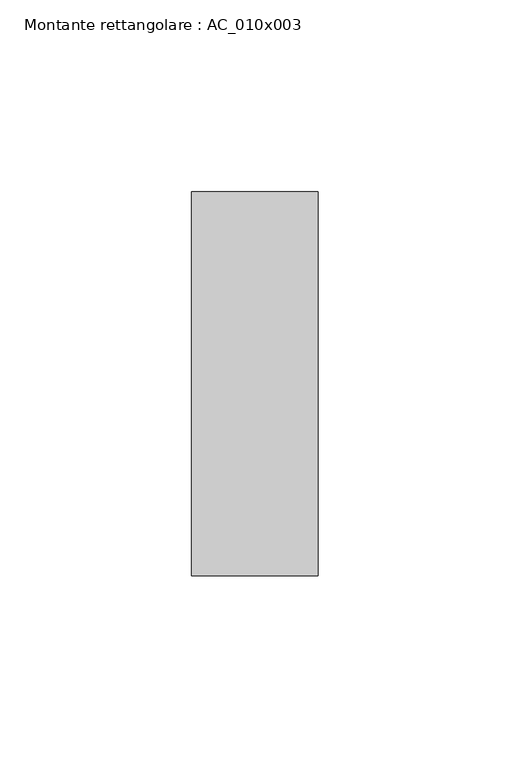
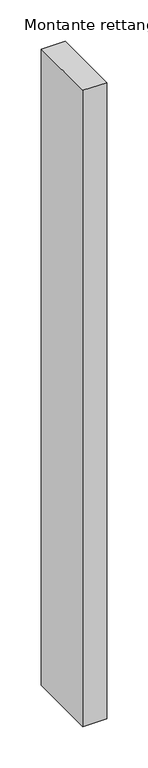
"""IFC4 building model written with IfcOpenShell, lengths in millimetres: member geometry, Montante rettangolare : AC_010x003."""

from ifc_helpers import new_model, si_unit, frame, origin, place, context, project, spatial, polyline, outline, extrude, source, transform, mapped, element, save


def montante_rettangolare_ac_010x003_1eb318b9(model_context):
    return source(origin(), model_context, "Body", "SweptSolid", [
        extrude(outline(polyline([(3.0, 50.0), (3.0, -50.0), (-30.0, -50.0), (-30.0, 50.0), (3.0, 50.0)])), frame((0.0, 0.0, -937.0221019), z_axis=(0.0, 0.0, 1.0), x_axis=(1.0, 0.0, 0.0)), (0.0, 0.0, 1.0), 937.0221019),
    ])


if __name__ == "__main__":
    model = new_model("IFC4")
    model_context = context("Model", 3, world=origin())
    ifc_project = project(units=[si_unit("LENGTHUNIT", "METRE", prefix="MILLI")], contexts=[model_context])
    site = spatial("IfcSite", under=ifc_project)
    building = spatial("IfcBuilding", under=site)
    placement = place(None, origin())
    montante_rettangolare_ac_010x003_shape = montante_rettangolare_ac_010x003_1eb318b9(model_context)
    element("IfcMember", 1, ObjectType="Montante rettangolare : AC_010x003", at=placement, inside=building, context=model_context, shape_type="MappedRepresentation", body=[
        mapped(montante_rettangolare_ac_010x003_shape, transform((0.0, 0.0, 0.0), x_axis=(1.0, 0.0, 0.0), y_axis=(0.0, 1.0, 0.0), z_axis=(0.0, 0.0, 1.0))),
    ])
    save(model, "model.ifc")
